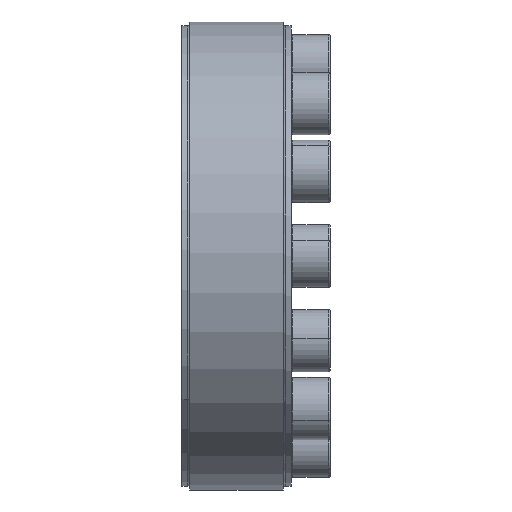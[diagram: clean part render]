
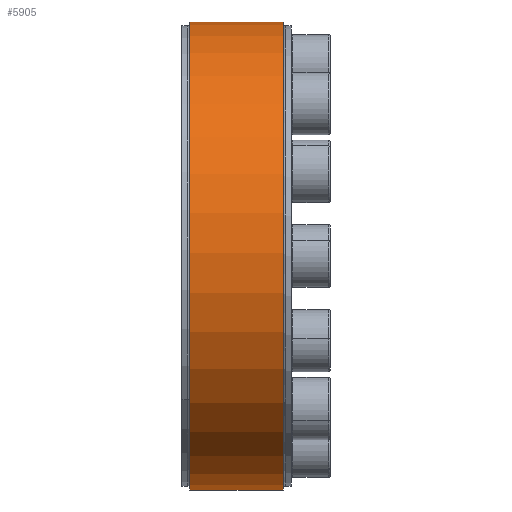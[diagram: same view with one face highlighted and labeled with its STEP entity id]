
A CAD part, front view. The second image highlights one B-rep face of the part: STEP entity #5905.
In plain terms, the highlighted cylindrical face has radius 60 mm (diameter 120 mm), a partial arc.
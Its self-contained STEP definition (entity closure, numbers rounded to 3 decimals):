
#205 = VERTEX_POINT ( 'NONE', #10361 ) ;
#257 = VERTEX_POINT ( 'NONE', #5378 ) ;
#475 = CYLINDRICAL_SURFACE ( 'NONE', #11231, 60. ) ;
#727 = DIRECTION ( 'NONE',  ( -1., 0., 0. ) ) ;
#1093 = EDGE_LOOP ( 'NONE', ( #3143, #3838, #2570, #14131 ) ) ;
#1259 = AXIS2_PLACEMENT_3D ( 'NONE', #8705, #727, #7444 ) ;
#1482 = LINE ( 'NONE', #12655, #9451 ) ;
#1495 = EDGE_CURVE ( 'NONE', #257, #6914, #1482, .T. ) ;
#2291 = DIRECTION ( 'NONE',  ( 1., 0., 0. ) ) ;
#2570 = ORIENTED_EDGE ( 'NONE', *, *, #13240, .F. ) ;
#3143 = ORIENTED_EDGE ( 'NONE', *, *, #7974, .T. ) ;
#3188 = CIRCLE ( 'NONE', #14473, 60. ) ;
#3388 = FACE_OUTER_BOUND ( 'NONE', #1093, .T. ) ;
#3582 = DIRECTION ( 'NONE',  ( -1., 0., 0. ) ) ;
#3838 = ORIENTED_EDGE ( 'NONE', *, *, #10405, .T. ) ;
#5209 = CARTESIAN_POINT ( 'NONE',  ( -2.598, 0., 60. ) ) ;
#5378 = CARTESIAN_POINT ( 'NONE',  ( -26.598, -1.65, -59.977 ) ) ;
#5905 = ADVANCED_FACE ( 'NONE', ( #3388 ), #475, .T. ) ;
#6914 = VERTEX_POINT ( 'NONE', #12800 ) ;
#7444 = DIRECTION ( 'NONE',  ( 0., 0., 1. ) ) ;
#7458 = CIRCLE ( 'NONE', #1259, 60. ) ;
#7635 = DIRECTION ( 'NONE',  ( 0., 0., 1. ) ) ;
#7974 = EDGE_CURVE ( 'NONE', #6914, #10691, #7458, .T. ) ;
#8705 = CARTESIAN_POINT ( 'NONE',  ( -2.598, 0., 0. ) ) ;
#9005 = CARTESIAN_POINT ( 'NONE',  ( -29.196, 0., 60. ) ) ;
#9451 = VECTOR ( 'NONE', #2291, 1000. ) ;
#10185 = DIRECTION ( 'NONE',  ( -1., 0., 0. ) ) ;
#10361 = CARTESIAN_POINT ( 'NONE',  ( -26.598, 0., 60. ) ) ;
#10405 = EDGE_CURVE ( 'NONE', #10691, #205, #14161, .T. ) ;
#10601 = CARTESIAN_POINT ( 'NONE',  ( -26.598, 0., 0. ) ) ;
#10691 = VERTEX_POINT ( 'NONE', #5209 ) ;
#11068 = VECTOR ( 'NONE', #10185, 1000. ) ;
#11189 = CARTESIAN_POINT ( 'NONE',  ( -29.196, 0., 0. ) ) ;
#11231 = AXIS2_PLACEMENT_3D ( 'NONE', #11189, #13576, #7635 ) ;
#12655 = CARTESIAN_POINT ( 'NONE',  ( -29.196, -1.65, -59.977 ) ) ;
#12793 = DIRECTION ( 'NONE',  ( 0., 0., 1. ) ) ;
#12800 = CARTESIAN_POINT ( 'NONE',  ( -2.598, -1.65, -59.977 ) ) ;
#13240 = EDGE_CURVE ( 'NONE', #257, #205, #3188, .T. ) ;
#13576 = DIRECTION ( 'NONE',  ( -1., 0., 0. ) ) ;
#14131 = ORIENTED_EDGE ( 'NONE', *, *, #1495, .T. ) ;
#14161 = LINE ( 'NONE', #9005, #11068 ) ;
#14473 = AXIS2_PLACEMENT_3D ( 'NONE', #10601, #3582, #12793 ) ;
